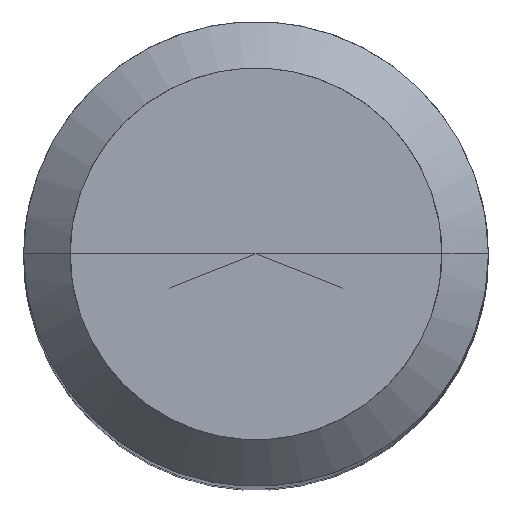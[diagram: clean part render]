
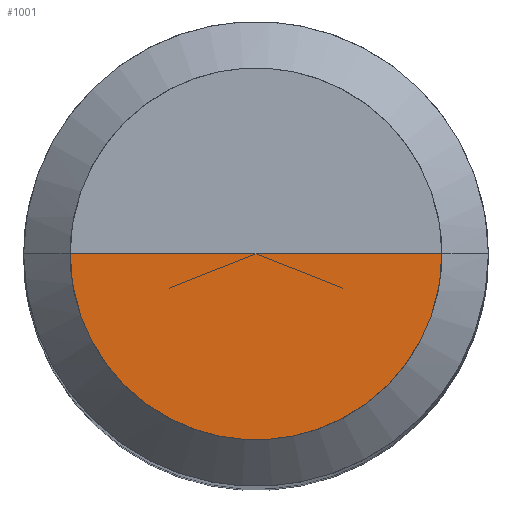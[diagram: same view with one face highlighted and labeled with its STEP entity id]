
A CAD part, top view. The second image highlights one B-rep face of the part: STEP entity #1001.
In plain terms, the highlighted free-form (B-spline) face has degree [1, 2] with [2, 5] control points.
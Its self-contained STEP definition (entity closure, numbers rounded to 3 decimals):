
#733=CARTESIAN_POINT('',(6.4,0.0,55.0));
#737=CARTESIAN_POINT('',(-6.4,0.0,55.0));
#738=CARTESIAN_POINT('',(0.0,0.0,55.0));
#742=CARTESIAN_POINT('',(-6.4,-6.4,55.0));
#743=CARTESIAN_POINT('',(0.0,-6.4,55.0));
#744=CARTESIAN_POINT('',(6.4,-6.4,55.0));
#986=(
BOUNDED_SURFACE()
B_SPLINE_SURFACE(1,2,(
(#737,#742,#743,#744,#733),
(#738,#738,#738,#738,#738)
), .UNSPECIFIED.,.F.,.F.,.F.)
B_SPLINE_SURFACE_WITH_KNOTS((2,2),(3,2,3),(
0.0,1.0),(
0.0,0.5,1.0), .UNSPECIFIED.)
GEOMETRIC_REPRESENTATION_ITEM()
RATIONAL_B_SPLINE_SURFACE(((1.0,0.707,1.0,0.707,1.0),
(1.0,0.707,1.0,0.707,1.0)
))
REPRESENTATION_ITEM('')
SURFACE()
);
#987=(
BOUNDED_CURVE()
B_SPLINE_CURVE(2,(#733,#744,#743,#742,#737),.UNSPECIFIED.,.F.,.F.)
B_SPLINE_CURVE_WITH_KNOTS((3,2,3),
(0.0,0.5,1.0),.UNSPECIFIED.)
CURVE()
GEOMETRIC_REPRESENTATION_ITEM()
RATIONAL_B_SPLINE_CURVE((1.0,0.707,1.0,0.707,1.0))
REPRESENTATION_ITEM('')
);
#988=(
BOUNDED_CURVE()
B_SPLINE_CURVE(1,(#737,#738),.UNSPECIFIED.,.F.,.F.)
B_SPLINE_CURVE_WITH_KNOTS((2,2),
(0.0,1.0),.UNSPECIFIED.)
CURVE()
GEOMETRIC_REPRESENTATION_ITEM()
RATIONAL_B_SPLINE_CURVE((1.0,1.0))
REPRESENTATION_ITEM('')
);
#989=(
BOUNDED_CURVE()
B_SPLINE_CURVE(1,(#738,#733),.UNSPECIFIED.,.F.,.F.)
B_SPLINE_CURVE_WITH_KNOTS((2,2),
(0.0,1.0),.UNSPECIFIED.)
CURVE()
GEOMETRIC_REPRESENTATION_ITEM()
RATIONAL_B_SPLINE_CURVE((1.0,1.0))
REPRESENTATION_ITEM('')
);
#990=VERTEX_POINT('',#733);
#991=VERTEX_POINT('',#737);
#992=VERTEX_POINT('',#738);
#993=EDGE_CURVE('',#990,#991,#987,.T.);
#994=EDGE_CURVE('',#991,#992,#988,.T.);
#995=EDGE_CURVE('',#992,#990,#989,.T.);
#996=ORIENTED_EDGE('',*,*,#993,.T.);
#997=ORIENTED_EDGE('',*,*,#994,.T.);
#998=ORIENTED_EDGE('',*,*,#995,.T.);
#999=EDGE_LOOP('',(#996,#997,#998));
#1000=FACE_OUTER_BOUND('',#999,.T.);
#1001=ADVANCED_FACE('',(#1000),#986,.T.);
